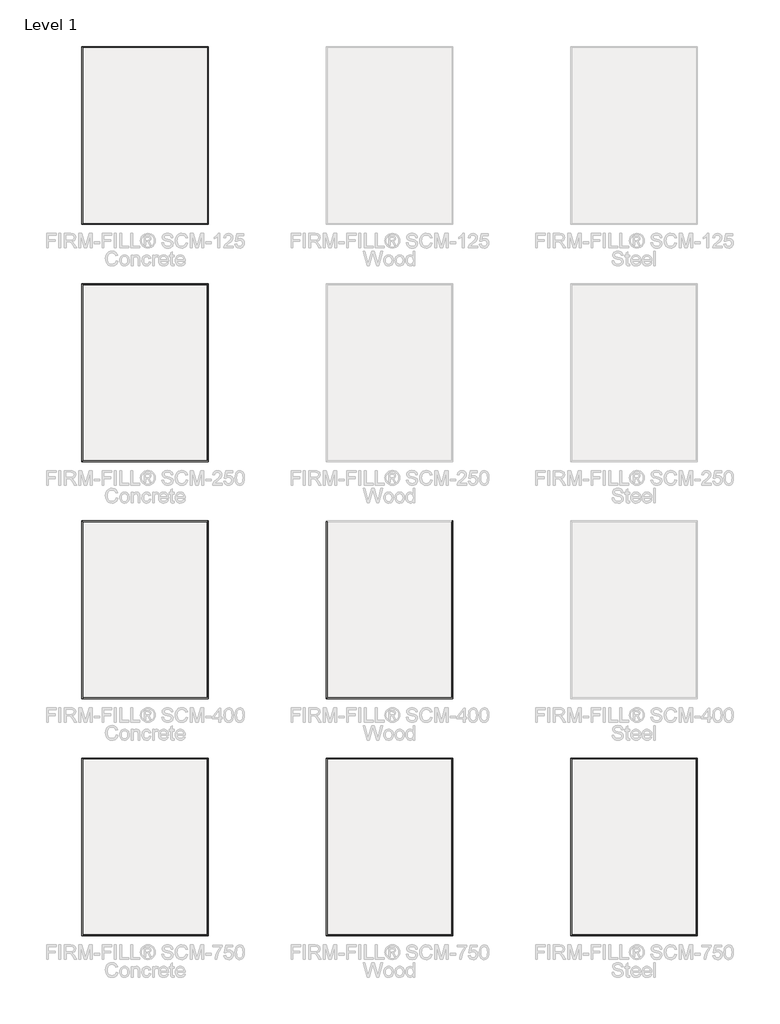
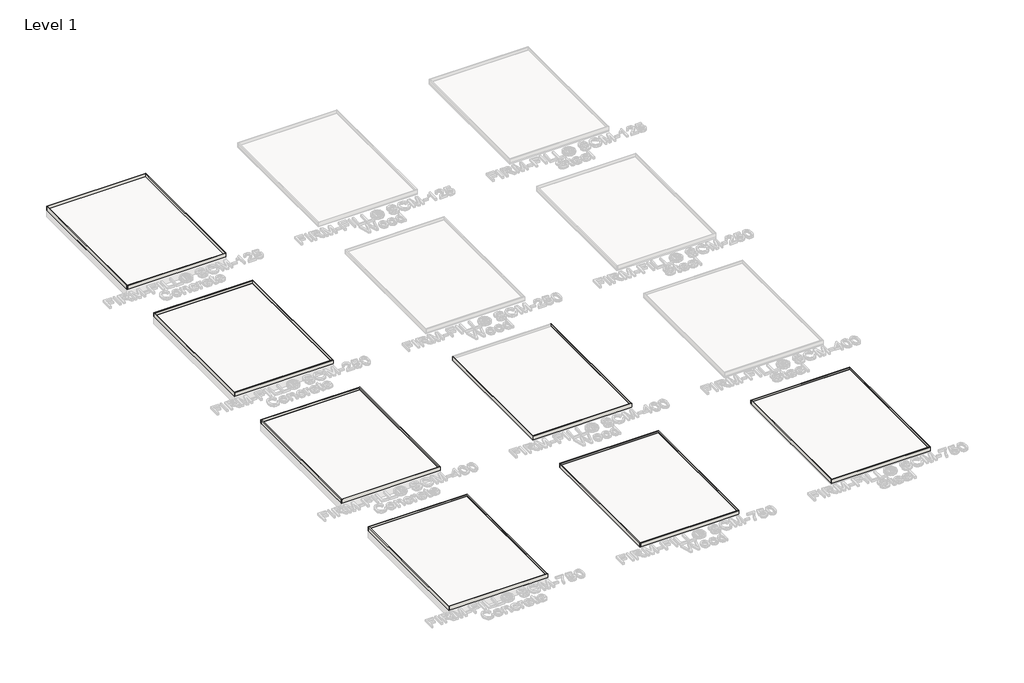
# One storey, part 1 of 10: 50 walls.
"""IFC4 building model written with IfcOpenShell, lengths in millimetres."""

from ifc_helpers import new_model, si_unit, frame, origin, place, context, project, spatial, polyline, outline, extrude, faceted_brep, element, save

model = new_model("IFC4")

# Units and contexts
model_context = context("Model", 3, world=origin())
ifc_project = project(units=[si_unit("LENGTHUNIT", "METRE", prefix="MILLI")], contexts=[model_context])

# Site, building, storey
site = spatial("IfcSite", under=ifc_project)
building = spatial("IfcBuilding", under=site)
storey = spatial("IfcBuildingStorey", under=building, Name="Level 1", Elevation=0.0)

# Walls
placement = place(None, origin())
element("IfcWall", 1, ObjectType="5/8\" Gypsum Board", at=placement, inside=storey, context=model_context, shape_type="Brep", body=[
    faceted_brep([(-4660.0056154, -15132.3614307, -57.15), (-4660.0056154, -18812.1864307, -57.15), (-4660.0056154, -18812.1864307, 44.45), (-4660.0056154, -15132.3614307, 44.45), (-4644.1306154, -15132.3614307, -57.15), (-4644.1306154, -15132.3614307, 44.45), (-4644.1306154, -18796.3114307, 44.45), (-4644.1306154, -18812.1864307, 44.45), (-4644.1306154, -18812.1864307, -57.15), (-4644.1306154, -18796.3114307, -57.15)], [[[0, 1, 2, 3]], [[4, 5, 6, 7, 8, 9]], [[1, 0, 4, 9, 8]], [[3, 2, 7, 6, 5]], [[2, 1, 8, 7]], [[0, 3, 5, 4]]]),
])
element("IfcWall", 2, ObjectType="5/8\" Gypsum Board", at=placement, inside=storey, context=model_context, shape_type="Brep", body=[
    faceted_brep([(-2031.1056154, -18796.3114307, -57.15), (-2046.9806154, -18796.3114307, -57.15), (-4644.1306154, -18796.3114307, -57.15), (-4644.1306154, -18796.3114307, 44.45), (-2046.9806154, -18796.3114307, 44.45), (-2031.1056154, -18796.3114307, 44.45), (-2031.1056154, -18812.1864307, -57.15), (-2031.1056154, -18812.1864307, 44.45), (-4644.1306154, -18812.1864307, 44.45), (-4644.1306154, -18812.1864307, -57.15)], [[[0, 1, 2, 3, 4, 5]], [[6, 7, 8, 9]], [[2, 1, 0, 6, 9]], [[5, 4, 3, 8, 7]], [[3, 2, 9, 8]], [[0, 5, 7, 6]]]),
])
element("IfcWall", 3, ObjectType="5/8\" Gypsum Board", at=placement, inside=storey, context=model_context, shape_type="Brep", body=[
    faceted_brep([(-2046.9806154, -15116.4864307, -57.15), (-2046.9806154, -15132.3614307, -57.15), (-2046.9806154, -18796.3114307, -57.15), (-2046.9806154, -18796.3114307, 44.45), (-2046.9806154, -15132.3614307, 44.45), (-2046.9806154, -15116.4864307, 44.45), (-2031.1056154, -15116.4864307, -57.15), (-2031.1056154, -15116.4864307, 44.45), (-2031.1056154, -18796.3114307, 44.45), (-2031.1056154, -18796.3114307, -57.15)], [[[0, 1, 2, 3, 4, 5]], [[6, 7, 8, 9]], [[2, 1, 0, 6, 9]], [[5, 4, 3, 8, 7]], [[3, 2, 9, 8]], [[0, 5, 7, 6]]]),
])
element("IfcWall", 4, ObjectType="5/8\" Gypsum Board", at=placement, inside=storey, context=model_context, shape_type="Brep", body=[
    faceted_brep([(-4660.0056154, -15132.3614307, -57.15), (-4644.1306154, -15132.3614307, -57.15), (-2046.9806154, -15132.3614307, -57.15), (-2046.9806154, -15132.3614307, 44.45), (-4644.1306154, -15132.3614307, 44.45), (-4660.0056154, -15132.3614307, 44.45), (-4660.0056154, -15116.4864307, -57.15), (-4660.0056154, -15116.4864307, 44.45), (-2046.9806154, -15116.4864307, 44.45), (-2046.9806154, -15116.4864307, -57.15)], [[[0, 1, 2, 3, 4, 5]], [[6, 7, 8, 9]], [[2, 1, 0, 6, 9]], [[5, 4, 3, 8, 7]], [[3, 2, 9, 8]], [[0, 5, 7, 6]]]),
])
element("IfcWall", 5, ObjectType="5/8\" Gypsum Board", at=placement, inside=storey, context=model_context, shape_type="Brep", body=[
    faceted_brep([(419.9943846, -15132.3614307, -57.15), (419.9943846, -18812.1864307, -57.15), (419.9943846, -18812.1864307, 44.45), (419.9943846, -15132.3614307, 44.45), (435.8693846, -15132.3614307, -57.15), (435.8693846, -15132.3614307, 44.45), (435.8693846, -18796.3114307, 44.45), (435.8693846, -18812.1864307, 44.45), (435.8693846, -18812.1864307, -57.15), (435.8693846, -18796.3114307, -57.15)], [[[0, 1, 2, 3]], [[4, 5, 6, 7, 8, 9]], [[1, 0, 4, 9, 8]], [[3, 2, 7, 6, 5]], [[2, 1, 8, 7]], [[0, 3, 5, 4]]]),
])
element("IfcWall", 6, ObjectType="5/8\" Gypsum Board", at=placement, inside=storey, context=model_context, shape_type="Brep", body=[
    faceted_brep([(3048.8943846, -18796.3114307, -57.15), (3033.0193846, -18796.3114307, -57.15), (435.8693846, -18796.3114307, -57.15), (435.8693846, -18796.3114307, 44.45), (3033.0193846, -18796.3114307, 44.45), (3048.8943846, -18796.3114307, 44.45), (3048.8943846, -18812.1864307, -57.15), (3048.8943846, -18812.1864307, 44.45), (435.8693846, -18812.1864307, 44.45), (435.8693846, -18812.1864307, -57.15)], [[[0, 1, 2, 3, 4, 5]], [[6, 7, 8, 9]], [[2, 1, 0, 6, 9]], [[5, 4, 3, 8, 7]], [[3, 2, 9, 8]], [[0, 5, 7, 6]]]),
])
element("IfcWall", 7, ObjectType="5/8\" Gypsum Board", at=placement, inside=storey, context=model_context, shape_type="Brep", body=[
    faceted_brep([(3033.0193846, -15116.4864307, -57.15), (3033.0193846, -15132.3614307, -57.15), (3033.0193846, -18796.3114307, -57.15), (3033.0193846, -18796.3114307, 44.45), (3033.0193846, -15132.3614307, 44.45), (3033.0193846, -15116.4864307, 44.45), (3048.8943846, -15116.4864307, -57.15), (3048.8943846, -15116.4864307, 44.45), (3048.8943846, -18796.3114307, 44.45), (3048.8943846, -18796.3114307, -57.15)], [[[0, 1, 2, 3, 4, 5]], [[6, 7, 8, 9]], [[2, 1, 0, 6, 9]], [[5, 4, 3, 8, 7]], [[3, 2, 9, 8]], [[0, 5, 7, 6]]]),
])
element("IfcWall", 8, ObjectType="5/8\" Gypsum Board", at=placement, inside=storey, context=model_context, shape_type="Brep", body=[
    faceted_brep([(419.9943846, -15132.3614307, -57.15), (435.8693846, -15132.3614307, -57.15), (3033.0193846, -15132.3614307, -57.15), (3033.0193846, -15132.3614307, 44.45), (435.8693846, -15132.3614307, 44.45), (419.9943846, -15132.3614307, 44.45), (419.9943846, -15116.4864307, -57.15), (419.9943846, -15116.4864307, 44.45), (3033.0193846, -15116.4864307, 44.45), (3033.0193846, -15116.4864307, -57.15)], [[[0, 1, 2, 3, 4, 5]], [[6, 7, 8, 9]], [[2, 1, 0, 6, 9]], [[5, 4, 3, 8, 7]], [[3, 2, 9, 8]], [[0, 5, 7, 6]]]),
])
element("IfcWall", 9, ObjectType="5/8\" Gypsum Board", at=placement, inside=storey, context=model_context, shape_type="Brep", body=[
    faceted_brep([(5499.9943846, -15132.3614307, -57.15), (5499.9943846, -18812.1864307, -57.15), (5499.9943846, -18812.1864307, 44.45), (5499.9943846, -15132.3614307, 44.45), (5515.8693846, -15132.3614307, -57.15), (5515.8693846, -15132.3614307, 44.45), (5515.8693846, -18796.3114307, 44.45), (5515.8693846, -18812.1864307, 44.45), (5515.8693846, -18812.1864307, -57.15), (5515.8693846, -18796.3114307, -57.15)], [[[0, 1, 2, 3]], [[4, 5, 6, 7, 8, 9]], [[1, 0, 4, 9, 8]], [[3, 2, 7, 6, 5]], [[2, 1, 8, 7]], [[0, 3, 5, 4]]]),
])
element("IfcWall", 10, ObjectType="5/8\" Gypsum Board", at=placement, inside=storey, context=model_context, shape_type="Brep", body=[
    faceted_brep([(8128.8943846, -18796.3114307, -57.15), (8113.0193846, -18796.3114307, -57.15), (5515.8693846, -18796.3114307, -57.15), (5515.8693846, -18796.3114307, 44.45), (8113.0193846, -18796.3114307, 44.45), (8128.8943846, -18796.3114307, 44.45), (8128.8943846, -18812.1864307, -57.15), (8128.8943846, -18812.1864307, 44.45), (5515.8693846, -18812.1864307, 44.45), (5515.8693846, -18812.1864307, -57.15)], [[[0, 1, 2, 3, 4, 5]], [[6, 7, 8, 9]], [[2, 1, 0, 6, 9]], [[5, 4, 3, 8, 7]], [[3, 2, 9, 8]], [[0, 5, 7, 6]]]),
])
element("IfcWall", 11, ObjectType="5/8\" Gypsum Board", at=placement, inside=storey, context=model_context, shape_type="Brep", body=[
    faceted_brep([(8113.0193846, -15116.4864307, -57.15), (8113.0193846, -15132.3614307, -57.15), (8113.0193846, -18796.3114307, -57.15), (8113.0193846, -18796.3114307, 44.45), (8113.0193846, -15132.3614307, 44.45), (8113.0193846, -15116.4864307, 44.45), (8128.8943846, -15116.4864307, -57.15), (8128.8943846, -15116.4864307, 44.45), (8128.8943846, -18796.3114307, 44.45), (8128.8943846, -18796.3114307, -57.15)], [[[0, 1, 2, 3, 4, 5]], [[6, 7, 8, 9]], [[2, 1, 0, 6, 9]], [[5, 4, 3, 8, 7]], [[3, 2, 9, 8]], [[0, 5, 7, 6]]]),
])
element("IfcWall", 12, ObjectType="5/8\" Gypsum Board", at=placement, inside=storey, context=model_context, shape_type="Brep", body=[
    faceted_brep([(5499.9943846, -15132.3614307, -57.15), (5515.8693846, -15132.3614307, -57.15), (8113.0193846, -15132.3614307, -57.15), (8113.0193846, -15132.3614307, 44.45), (5515.8693846, -15132.3614307, 44.45), (5499.9943846, -15132.3614307, 44.45), (5499.9943846, -15116.4864307, -57.15), (5499.9943846, -15116.4864307, 44.45), (8113.0193846, -15116.4864307, 44.45), (8113.0193846, -15116.4864307, -57.15)], [[[0, 1, 2, 3, 4, 5]], [[6, 7, 8, 9]], [[2, 1, 0, 6, 9]], [[5, 4, 3, 8, 7]], [[3, 2, 9, 8]], [[0, 5, 7, 6]]]),
])
element("IfcWall", 13, ObjectType="5/8\" Gypsum Board", at=placement, inside=storey, context=model_context, shape_type="Brep", body=[
    faceted_brep([(-4660.0056154, -10204.7614307, -41.91), (-4660.0056154, -13884.5864307, -41.91), (-4660.0056154, -13884.5864307, 59.69), (-4660.0056154, -10204.7614307, 59.69), (-4644.1306154, -10204.7614307, -41.91), (-4644.1306154, -10204.7614307, 59.69), (-4644.1306154, -13868.7114307, 59.69), (-4644.1306154, -13884.5864307, 59.69), (-4644.1306154, -13884.5864307, -41.91), (-4644.1306154, -13868.7114307, -41.91)], [[[0, 1, 2, 3]], [[4, 5, 6, 7, 8, 9]], [[1, 0, 4, 9, 8]], [[3, 2, 7, 6, 5]], [[2, 1, 8, 7]], [[0, 3, 5, 4]]]),
])
element("IfcWall", 14, ObjectType="5/8\" Gypsum Board", at=placement, inside=storey, context=model_context, shape_type="Brep", body=[
    faceted_brep([(-2031.1056154, -13868.7114307, -41.91), (-2046.9806154, -13868.7114307, -41.91), (-4644.1306154, -13868.7114307, -41.91), (-4644.1306154, -13868.7114307, 59.69), (-2046.9806154, -13868.7114307, 59.69), (-2031.1056154, -13868.7114307, 59.69), (-2031.1056154, -13884.5864307, -41.91), (-2031.1056154, -13884.5864307, 59.69), (-4644.1306154, -13884.5864307, 59.69), (-4644.1306154, -13884.5864307, -41.91)], [[[0, 1, 2, 3, 4, 5]], [[6, 7, 8, 9]], [[2, 1, 0, 6, 9]], [[5, 4, 3, 8, 7]], [[3, 2, 9, 8]], [[0, 5, 7, 6]]]),
])
element("IfcWall", 15, ObjectType="5/8\" Gypsum Board", at=placement, inside=storey, context=model_context, shape_type="Brep", body=[
    faceted_brep([(-2046.9806154, -10188.8864307, -41.91), (-2046.9806154, -10204.7614307, -41.91), (-2046.9806154, -13868.7114307, -41.91), (-2046.9806154, -13868.7114307, 59.69), (-2046.9806154, -10204.7614307, 59.69), (-2046.9806154, -10188.8864307, 59.69), (-2031.1056154, -10188.8864307, -41.91), (-2031.1056154, -10188.8864307, 59.69), (-2031.1056154, -13868.7114307, 59.69), (-2031.1056154, -13868.7114307, -41.91)], [[[0, 1, 2, 3, 4, 5]], [[6, 7, 8, 9]], [[2, 1, 0, 6, 9]], [[5, 4, 3, 8, 7]], [[3, 2, 9, 8]], [[0, 5, 7, 6]]]),
])
element("IfcWall", 16, ObjectType="5/8\" Gypsum Board", at=placement, inside=storey, context=model_context, shape_type="Brep", body=[
    faceted_brep([(-4660.0056154, -10204.7614307, -41.91), (-4644.1306154, -10204.7614307, -41.91), (-2046.9806154, -10204.7614307, -41.91), (-2046.9806154, -10204.7614307, 59.69), (-4644.1306154, -10204.7614307, 59.69), (-4660.0056154, -10204.7614307, 59.69), (-4660.0056154, -10188.8864307, -41.91), (-4660.0056154, -10188.8864307, 59.69), (-2046.9806154, -10188.8864307, 59.69), (-2046.9806154, -10188.8864307, -41.91)], [[[0, 1, 2, 3, 4, 5]], [[6, 7, 8, 9]], [[2, 1, 0, 6, 9]], [[5, 4, 3, 8, 7]], [[3, 2, 9, 8]], [[0, 5, 7, 6]]]),
])
element("IfcWall", 17, ObjectType="5/8\" Gypsum Board", at=placement, inside=storey, context=model_context, shape_type="Brep", body=[
    faceted_brep([(419.9943846, -10204.7614307, -41.91), (419.9943846, -13884.5864307, -41.91), (419.9943846, -13884.5864307, 59.69), (419.9943846, -10204.7614307, 59.69), (435.8693846, -10204.7614307, -41.91), (435.8693846, -10204.7614307, 59.69), (435.8693846, -13868.7114307, 59.69), (435.8693846, -13884.5864307, 59.69), (435.8693846, -13884.5864307, -41.91), (435.8693846, -13868.7114307, -41.91)], [[[0, 1, 2, 3]], [[4, 5, 6, 7, 8, 9]], [[1, 0, 4, 9, 8]], [[3, 2, 7, 6, 5]], [[2, 1, 8, 7]], [[0, 3, 5, 4]]]),
])
element("IfcWall", 18, ObjectType="5/8\" Gypsum Board", at=placement, inside=storey, context=model_context, shape_type="Brep", body=[
    faceted_brep([(3048.8943846, -13868.7114307, -41.91), (3033.0193846, -13868.7114307, -41.91), (435.8693846, -13868.7114307, -41.91), (435.8693846, -13868.7114307, 59.69), (3033.0193846, -13868.7114307, 59.69), (3048.8943846, -13868.7114307, 59.69), (3048.8943846, -13884.5864307, -41.91), (3048.8943846, -13884.5864307, 59.69), (435.8693846, -13884.5864307, 59.69), (435.8693846, -13884.5864307, -41.91)], [[[0, 1, 2, 3, 4, 5]], [[6, 7, 8, 9]], [[2, 1, 0, 6, 9]], [[5, 4, 3, 8, 7]], [[3, 2, 9, 8]], [[0, 5, 7, 6]]]),
])
element("IfcWall", 19, ObjectType="5/8\" Gypsum Board", at=placement, inside=storey, context=model_context, shape_type="Brep", body=[
    faceted_brep([(3033.0193846, -10188.8864307, -41.91), (3033.0193846, -10204.7614307, -41.91), (3033.0193846, -13868.7114307, -41.91), (3033.0193846, -13868.7114307, 59.69), (3033.0193846, -10204.7614307, 59.69), (3033.0193846, -10188.8864307, 59.69), (3048.8943846, -10188.8864307, -41.91), (3048.8943846, -10188.8864307, 59.69), (3048.8943846, -13868.7114307, 59.69), (3048.8943846, -13868.7114307, -41.91)], [[[0, 1, 2, 3, 4, 5]], [[6, 7, 8, 9]], [[2, 1, 0, 6, 9]], [[5, 4, 3, 8, 7]], [[3, 2, 9, 8]], [[0, 5, 7, 6]]]),
])
element("IfcWall", 20, ObjectType="5/8\" Gypsum Board", at=placement, inside=storey, context=model_context, shape_type="Brep", body=[
    faceted_brep([(-4660.0056154, -5277.1614307, -31.75), (-4660.0056154, -8956.9864307, -31.75), (-4660.0056154, -8956.9864307, 69.85), (-4660.0056154, -5277.1614307, 69.85), (-4644.1306154, -5277.1614307, -31.75), (-4644.1306154, -5277.1614307, 69.85), (-4644.1306154, -8941.1114307, 69.85), (-4644.1306154, -8956.9864307, 69.85), (-4644.1306154, -8956.9864307, -31.75), (-4644.1306154, -8941.1114307, -31.75)], [[[0, 1, 2, 3]], [[4, 5, 6, 7, 8, 9]], [[1, 0, 4, 9, 8]], [[3, 2, 7, 6, 5]], [[2, 1, 8, 7]], [[0, 3, 5, 4]]]),
])
element("IfcWall", 21, ObjectType="5/8\" Gypsum Board", at=placement, inside=storey, context=model_context, shape_type="Brep", body=[
    faceted_brep([(-2031.1056154, -8941.1114307, -31.75), (-2046.9806154, -8941.1114307, -31.75), (-4644.1306154, -8941.1114307, -31.75), (-4644.1306154, -8941.1114307, 69.85), (-2046.9806154, -8941.1114307, 69.85), (-2031.1056154, -8941.1114307, 69.85), (-2031.1056154, -8956.9864307, -31.75), (-2031.1056154, -8956.9864307, 69.85), (-4644.1306154, -8956.9864307, 69.85), (-4644.1306154, -8956.9864307, -31.75)], [[[0, 1, 2, 3, 4, 5]], [[6, 7, 8, 9]], [[2, 1, 0, 6, 9]], [[5, 4, 3, 8, 7]], [[3, 2, 9, 8]], [[0, 5, 7, 6]]]),
])
element("IfcWall", 22, ObjectType="5/8\" Gypsum Board", at=placement, inside=storey, context=model_context, shape_type="Brep", body=[
    faceted_brep([(-2046.9806154, -5261.2864307, -31.75), (-2046.9806154, -5277.1614307, -31.75), (-2046.9806154, -8941.1114307, -31.75), (-2046.9806154, -8941.1114307, 69.85), (-2046.9806154, -5277.1614307, 69.85), (-2046.9806154, -5261.2864307, 69.85), (-2031.1056154, -5261.2864307, -31.75), (-2031.1056154, -5261.2864307, 69.85), (-2031.1056154, -8941.1114307, 69.85), (-2031.1056154, -8941.1114307, -31.75)], [[[0, 1, 2, 3, 4, 5]], [[6, 7, 8, 9]], [[2, 1, 0, 6, 9]], [[5, 4, 3, 8, 7]], [[3, 2, 9, 8]], [[0, 5, 7, 6]]]),
])
element("IfcWall", 23, ObjectType="5/8\" Gypsum Board", at=placement, inside=storey, context=model_context, shape_type="Brep", body=[
    faceted_brep([(-4660.0056154, -5277.1614307, -31.75), (-4644.1306154, -5277.1614307, -31.75), (-2046.9806154, -5277.1614307, -31.75), (-2046.9806154, -5277.1614307, 69.85), (-4644.1306154, -5277.1614307, 69.85), (-4660.0056154, -5277.1614307, 69.85), (-4660.0056154, -5261.2864307, -31.75), (-4660.0056154, -5261.2864307, 69.85), (-2046.9806154, -5261.2864307, 69.85), (-2046.9806154, -5261.2864307, -31.75)], [[[0, 1, 2, 3, 4, 5]], [[6, 7, 8, 9]], [[2, 1, 0, 6, 9]], [[5, 4, 3, 8, 7]], [[3, 2, 9, 8]], [[0, 5, 7, 6]]]),
])
element("IfcWall", 24, ObjectType="5/8\" Gypsum Board", at=placement, inside=storey, context=model_context, shape_type="Brep", body=[
    faceted_brep([(-4660.0056154, -349.5614307, -22.225), (-4660.0056154, -4029.3864307, -22.225), (-4660.0056154, -4029.3864307, 79.375), (-4660.0056154, -349.5614307, 79.375), (-4644.1306154, -349.5614307, -22.225), (-4644.1306154, -349.5614307, 79.375), (-4644.1306154, -4013.5114307, 79.375), (-4644.1306154, -4029.3864307, 79.375), (-4644.1306154, -4029.3864307, -22.225), (-4644.1306154, -4013.5114307, -22.225)], [[[0, 1, 2, 3]], [[4, 5, 6, 7, 8, 9]], [[1, 0, 4, 9, 8]], [[3, 2, 7, 6, 5]], [[2, 1, 8, 7]], [[0, 3, 5, 4]]]),
])
element("IfcWall", 25, ObjectType="5/8\" Gypsum Board", at=placement, inside=storey, context=model_context, shape_type="Brep", body=[
    faceted_brep([(-2031.1056154, -4013.5114307, -22.225), (-2046.9806154, -4013.5114307, -22.225), (-4644.1306154, -4013.5114307, -22.225), (-4644.1306154, -4013.5114307, 79.375), (-2046.9806154, -4013.5114307, 79.375), (-2031.1056154, -4013.5114307, 79.375), (-2031.1056154, -4029.3864307, -22.225), (-2031.1056154, -4029.3864307, 79.375), (-4644.1306154, -4029.3864307, 79.375), (-4644.1306154, -4029.3864307, -22.225)], [[[0, 1, 2, 3, 4, 5]], [[6, 7, 8, 9]], [[2, 1, 0, 6, 9]], [[5, 4, 3, 8, 7]], [[3, 2, 9, 8]], [[0, 5, 7, 6]]]),
])
element("IfcWall", 26, ObjectType="5/8\" Gypsum Board", at=placement, inside=storey, context=model_context, shape_type="Brep", body=[
    faceted_brep([(-2046.9806154, -333.6864307, -22.225), (-2046.9806154, -349.5614307, -22.225), (-2046.9806154, -4013.5114307, -22.225), (-2046.9806154, -4013.5114307, 79.375), (-2046.9806154, -349.5614307, 79.375), (-2046.9806154, -333.6864307, 79.375), (-2031.1056154, -333.6864307, -22.225), (-2031.1056154, -333.6864307, 79.375), (-2031.1056154, -4013.5114307, 79.375), (-2031.1056154, -4013.5114307, -22.225)], [[[0, 1, 2, 3, 4, 5]], [[6, 7, 8, 9]], [[2, 1, 0, 6, 9]], [[5, 4, 3, 8, 7]], [[3, 2, 9, 8]], [[0, 5, 7, 6]]]),
])
element("IfcWall", 27, ObjectType="5/8\" Gypsum Board", at=placement, inside=storey, context=model_context, shape_type="Brep", body=[
    faceted_brep([(-4660.0056154, -349.5614307, -22.225), (-4644.1306154, -349.5614307, -22.225), (-2046.9806154, -349.5614307, -22.225), (-2046.9806154, -349.5614307, 79.375), (-4644.1306154, -349.5614307, 79.375), (-4660.0056154, -349.5614307, 79.375), (-4660.0056154, -333.6864307, -22.225), (-4660.0056154, -333.6864307, 79.375), (-2046.9806154, -333.6864307, 79.375), (-2046.9806154, -333.6864307, -22.225)], [[[0, 1, 2, 3, 4, 5]], [[6, 7, 8, 9]], [[2, 1, 0, 6, 9]], [[5, 4, 3, 8, 7]], [[3, 2, 9, 8]], [[0, 5, 7, 6]]]),
])
element("IfcWall", 28, ObjectType="Perimeter Isolation", at=placement, inside=storey, context=model_context, shape_type="Brep", body=[
    faceted_brep([(5515.8693846, -15132.3614307, -57.15), (5515.8693846, -18796.3114307, -57.15), (5515.8693846, -18796.3114307, 0.0), (5515.8693846, -15132.3614307, 0.0), (5519.0443846, -15132.3614307, -57.15), (5519.0443846, -15132.3614307, 0.0), (5519.0443846, -15135.5364307, 0.0), (5519.0443846, -18793.1364307, 0.0), (5519.0443846, -18796.3114307, 0.0), (5519.0443846, -18796.3114307, -57.15), (5519.0443846, -18793.1364307, -57.15), (5519.0443846, -15135.5364307, -57.15)], [[[0, 1, 2, 3]], [[4, 5, 6, 7, 8, 9, 10, 11]], [[1, 0, 4, 11, 10, 9]], [[3, 2, 8, 7, 6, 5]], [[0, 3, 5, 4]], [[2, 1, 9, 8]]]),
])
element("IfcWall", 29, ObjectType="Perimeter Isolation", at=placement, inside=storey, context=model_context, shape_type="Brep", body=[
    faceted_brep([(5519.0443846, -15135.5364307, -57.15), (8109.8443846, -15135.5364307, -57.15), (8113.0193846, -15135.5364307, -57.15), (8113.0193846, -15135.5364307, 0.0), (8109.8443846, -15135.5364307, 0.0), (5519.0443846, -15135.5364307, 0.0), (5519.0443846, -15132.3614307, -57.15), (5519.0443846, -15132.3614307, 0.0), (8113.0193846, -15132.3614307, 0.0), (8113.0193846, -15132.3614307, -57.15)], [[[0, 1, 2, 3, 4, 5]], [[6, 7, 8, 9]], [[2, 1, 0, 6, 9]], [[5, 4, 3, 8, 7]], [[0, 5, 7, 6]], [[3, 2, 9, 8]]]),
])
element("IfcWall", 30, ObjectType="Perimeter Isolation", at=placement, inside=storey, context=model_context, shape_type="Brep", body=[
    faceted_brep([(8109.8443846, -15135.5364307, -57.15), (8109.8443846, -18793.1364307, -57.15), (8109.8443846, -18796.3114307, -57.15), (8109.8443846, -18796.3114307, 0.0), (8109.8443846, -18793.1364307, 0.0), (8109.8443846, -15135.5364307, 0.0), (8113.0193846, -15135.5364307, -57.15), (8113.0193846, -15135.5364307, 0.0), (8113.0193846, -18796.3114307, 0.0), (8113.0193846, -18796.3114307, -57.15)], [[[0, 1, 2, 3, 4, 5]], [[6, 7, 8, 9]], [[2, 1, 0, 6, 9]], [[5, 4, 3, 8, 7]], [[0, 5, 7, 6]], [[3, 2, 9, 8]]]),
])
element("IfcWall", 31, ObjectType="Perimeter Isolation", at=placement, inside=storey, context=model_context, shape_type="SweptSolid", body=[
    extrude(outline(polyline([(5519.0443846, -18793.1364307), (8109.8443846, -18793.1364307), (8109.8443846, -18796.3114307), (5519.0443846, -18796.3114307), (5519.0443846, -18793.1364307)])), frame((0.0, 0.0, -57.15), z_axis=(0.0, 0.0, 1.0), x_axis=(1.0, 0.0, 0.0)), (0.0, 0.0, 1.0), 57.15),
])
element("IfcWall", 32, ObjectType="Perimeter Isolation", at=placement, inside=storey, context=model_context, shape_type="Brep", body=[
    faceted_brep([(435.8693846, -15132.3614307, -57.15), (435.8693846, -18796.3114307, -57.15), (435.8693846, -18796.3114307, 0.0), (435.8693846, -15132.3614307, 0.0), (439.0443846, -15132.3614307, -57.15), (439.0443846, -15132.3614307, 0.0), (439.0443846, -15135.5364307, 0.0), (439.0443846, -18793.1364307, 0.0), (439.0443846, -18796.3114307, 0.0), (439.0443846, -18796.3114307, -57.15), (439.0443846, -18793.1364307, -57.15), (439.0443846, -15135.5364307, -57.15)], [[[0, 1, 2, 3]], [[4, 5, 6, 7, 8, 9, 10, 11]], [[1, 0, 4, 11, 10, 9]], [[3, 2, 8, 7, 6, 5]], [[0, 3, 5, 4]], [[2, 1, 9, 8]]]),
])
element("IfcWall", 33, ObjectType="Perimeter Isolation", at=placement, inside=storey, context=model_context, shape_type="Brep", body=[
    faceted_brep([(439.0443846, -15135.5364307, -57.15), (3029.8443846, -15135.5364307, -57.15), (3033.0193846, -15135.5364307, -57.15), (3033.0193846, -15135.5364307, 0.0), (3029.8443846, -15135.5364307, 0.0), (439.0443846, -15135.5364307, 0.0), (439.0443846, -15132.3614307, -57.15), (439.0443846, -15132.3614307, 0.0), (3033.0193846, -15132.3614307, 0.0), (3033.0193846, -15132.3614307, -57.15)], [[[0, 1, 2, 3, 4, 5]], [[6, 7, 8, 9]], [[2, 1, 0, 6, 9]], [[5, 4, 3, 8, 7]], [[0, 5, 7, 6]], [[3, 2, 9, 8]]]),
])
element("IfcWall", 34, ObjectType="Perimeter Isolation", at=placement, inside=storey, context=model_context, shape_type="Brep", body=[
    faceted_brep([(3029.8443846, -15135.5364307, -57.15), (3029.8443846, -18793.1364307, -57.15), (3029.8443846, -18796.3114307, -57.15), (3029.8443846, -18796.3114307, 0.0), (3029.8443846, -18793.1364307, 0.0), (3029.8443846, -15135.5364307, 0.0), (3033.0193846, -15135.5364307, -57.15), (3033.0193846, -15135.5364307, 0.0), (3033.0193846, -18796.3114307, 0.0), (3033.0193846, -18796.3114307, -57.15)], [[[0, 1, 2, 3, 4, 5]], [[6, 7, 8, 9]], [[2, 1, 0, 6, 9]], [[5, 4, 3, 8, 7]], [[0, 5, 7, 6]], [[3, 2, 9, 8]]]),
])
element("IfcWall", 35, ObjectType="Perimeter Isolation", at=placement, inside=storey, context=model_context, shape_type="SweptSolid", body=[
    extrude(outline(polyline([(439.0443846, -18793.1364307), (3029.8443846, -18793.1364307), (3029.8443846, -18796.3114307), (439.0443846, -18796.3114307), (439.0443846, -18793.1364307)])), frame((0.0, 0.0, -57.15), z_axis=(0.0, 0.0, 1.0), x_axis=(1.0, 0.0, 0.0)), (0.0, 0.0, 1.0), 57.15),
])
element("IfcWall", 36, ObjectType="Perimeter Isolation", at=placement, inside=storey, context=model_context, shape_type="Brep", body=[
    faceted_brep([(-4644.1306154, -15132.3614307, -57.15), (-4644.1306154, -18796.3114307, -57.15), (-4644.1306154, -18796.3114307, 0.0), (-4644.1306154, -15132.3614307, 0.0), (-4640.9556154, -15132.3614307, -57.15), (-4640.9556154, -15132.3614307, 0.0), (-4640.9556154, -15135.5364307, 0.0), (-4640.9556154, -18793.1364307, 0.0), (-4640.9556154, -18796.3114307, 0.0), (-4640.9556154, -18796.3114307, -57.15), (-4640.9556154, -18793.1364307, -57.15), (-4640.9556154, -15135.5364307, -57.15)], [[[0, 1, 2, 3]], [[4, 5, 6, 7, 8, 9, 10, 11]], [[1, 0, 4, 11, 10, 9]], [[3, 2, 8, 7, 6, 5]], [[0, 3, 5, 4]], [[2, 1, 9, 8]]]),
])
element("IfcWall", 37, ObjectType="Perimeter Isolation", at=placement, inside=storey, context=model_context, shape_type="Brep", body=[
    faceted_brep([(-4640.9556154, -15135.5364307, -57.15), (-2050.1556154, -15135.5364307, -57.15), (-2046.9806154, -15135.5364307, -57.15), (-2046.9806154, -15135.5364307, 0.0), (-2050.1556154, -15135.5364307, 0.0), (-4640.9556154, -15135.5364307, 0.0), (-4640.9556154, -15132.3614307, -57.15), (-4640.9556154, -15132.3614307, 0.0), (-2046.9806154, -15132.3614307, 0.0), (-2046.9806154, -15132.3614307, -57.15)], [[[0, 1, 2, 3, 4, 5]], [[6, 7, 8, 9]], [[2, 1, 0, 6, 9]], [[5, 4, 3, 8, 7]], [[0, 5, 7, 6]], [[3, 2, 9, 8]]]),
])
element("IfcWall", 38, ObjectType="Perimeter Isolation", at=placement, inside=storey, context=model_context, shape_type="Brep", body=[
    faceted_brep([(-2050.1556154, -15135.5364307, -57.15), (-2050.1556154, -18793.1364307, -57.15), (-2050.1556154, -18796.3114307, -57.15), (-2050.1556154, -18796.3114307, 0.0), (-2050.1556154, -18793.1364307, 0.0), (-2050.1556154, -15135.5364307, 0.0), (-2046.9806154, -15135.5364307, -57.15), (-2046.9806154, -15135.5364307, 0.0), (-2046.9806154, -18796.3114307, 0.0), (-2046.9806154, -18796.3114307, -57.15)], [[[0, 1, 2, 3, 4, 5]], [[6, 7, 8, 9]], [[2, 1, 0, 6, 9]], [[5, 4, 3, 8, 7]], [[0, 5, 7, 6]], [[3, 2, 9, 8]]]),
])
element("IfcWall", 39, ObjectType="Perimeter Isolation", at=placement, inside=storey, context=model_context, shape_type="SweptSolid", body=[
    extrude(outline(polyline([(-4640.9556154, -18793.1364307), (-2050.1556154, -18793.1364307), (-2050.1556154, -18796.3114307), (-4640.9556154, -18796.3114307), (-4640.9556154, -18793.1364307)])), frame((0.0, 0.0, -57.15), z_axis=(0.0, 0.0, 1.0), x_axis=(1.0, 0.0, 0.0)), (0.0, 0.0, 1.0), 57.15),
])
element("IfcWall", 40, ObjectType="Perimeter Isolation", at=placement, inside=storey, context=model_context, shape_type="Brep", body=[
    faceted_brep([(435.8693846, -10204.7614307, -41.91), (435.8693846, -13868.7114307, -41.91), (435.8693846, -13868.7114307, 0.0), (435.8693846, -10204.7614307, 0.0), (439.0443846, -10204.7614307, -41.91), (439.0443846, -10204.7614307, 0.0), (439.0443846, -10207.9364307, 0.0), (439.0443846, -13865.5364307, 0.0), (439.0443846, -13868.7114307, 0.0), (439.0443846, -13868.7114307, -41.91), (439.0443846, -13865.5364307, -41.91), (439.0443846, -10207.9364307, -41.91)], [[[0, 1, 2, 3]], [[4, 5, 6, 7, 8, 9, 10, 11]], [[1, 0, 4, 11, 10, 9]], [[3, 2, 8, 7, 6, 5]], [[0, 3, 5, 4]], [[2, 1, 9, 8]]]),
])
element("IfcWall", 41, ObjectType="Perimeter Isolation", at=placement, inside=storey, context=model_context, shape_type="Brep", body=[
    faceted_brep([(3029.8443846, -10207.9364307, -41.91), (3029.8443846, -13865.5364307, -41.91), (3029.8443846, -13868.7114307, -41.91), (3029.8443846, -13868.7114307, 0.0), (3029.8443846, -13865.5364307, 0.0), (3029.8443846, -10207.9364307, 0.0), (3033.0193846, -10207.9364307, -41.91), (3033.0193846, -10207.9364307, 0.0), (3033.0193846, -13868.7114307, 0.0), (3033.0193846, -13868.7114307, -41.91)], [[[0, 1, 2, 3, 4, 5]], [[6, 7, 8, 9]], [[2, 1, 0, 6, 9]], [[5, 4, 3, 8, 7]], [[0, 5, 7, 6]], [[3, 2, 9, 8]]]),
])
element("IfcWall", 42, ObjectType="Perimeter Isolation", at=placement, inside=storey, context=model_context, shape_type="SweptSolid", body=[
    extrude(outline(polyline([(439.0443846, -13865.5364307), (3029.8443846, -13865.5364307), (3029.8443846, -13868.7114307), (439.0443846, -13868.7114307), (439.0443846, -13865.5364307)])), frame((0.0, 0.0, -41.91), z_axis=(0.0, 0.0, 1.0), x_axis=(1.0, 0.0, 0.0)), (0.0, 0.0, 1.0), 41.91),
])
element("IfcWall", 43, ObjectType="Perimeter Isolation", at=placement, inside=storey, context=model_context, shape_type="Brep", body=[
    faceted_brep([(-4644.1306154, -10204.7614307, -41.91), (-4644.1306154, -13868.7114307, -41.91), (-4644.1306154, -13868.7114307, 0.0), (-4644.1306154, -10204.7614307, 0.0), (-4640.9556154, -10204.7614307, -41.91), (-4640.9556154, -10204.7614307, 0.0), (-4640.9556154, -10207.9364307, 0.0), (-4640.9556154, -13865.5364307, 0.0), (-4640.9556154, -13868.7114307, 0.0), (-4640.9556154, -13868.7114307, -41.91), (-4640.9556154, -13865.5364307, -41.91), (-4640.9556154, -10207.9364307, -41.91)], [[[0, 1, 2, 3]], [[4, 5, 6, 7, 8, 9, 10, 11]], [[1, 0, 4, 11, 10, 9]], [[3, 2, 8, 7, 6, 5]], [[0, 3, 5, 4]], [[2, 1, 9, 8]]]),
])
element("IfcWall", 44, ObjectType="Perimeter Isolation", at=placement, inside=storey, context=model_context, shape_type="Brep", body=[
    faceted_brep([(-4640.9556154, -10207.9364307, -41.91), (-2050.1556154, -10207.9364307, -41.91), (-2046.9806154, -10207.9364307, -41.91), (-2046.9806154, -10207.9364307, 0.0), (-2050.1556154, -10207.9364307, 0.0), (-4640.9556154, -10207.9364307, 0.0), (-4640.9556154, -10204.7614307, -41.91), (-4640.9556154, -10204.7614307, 0.0), (-2046.9806154, -10204.7614307, 0.0), (-2046.9806154, -10204.7614307, -41.91)], [[[0, 1, 2, 3, 4, 5]], [[6, 7, 8, 9]], [[2, 1, 0, 6, 9]], [[5, 4, 3, 8, 7]], [[0, 5, 7, 6]], [[3, 2, 9, 8]]]),
])
element("IfcWall", 45, ObjectType="Perimeter Isolation", at=placement, inside=storey, context=model_context, shape_type="Brep", body=[
    faceted_brep([(-2050.1556154, -10207.9364307, -41.91), (-2050.1556154, -13865.5364307, -41.91), (-2050.1556154, -13868.7114307, -41.91), (-2050.1556154, -13868.7114307, 0.0), (-2050.1556154, -13865.5364307, 0.0), (-2050.1556154, -10207.9364307, 0.0), (-2046.9806154, -10207.9364307, -41.91), (-2046.9806154, -10207.9364307, 0.0), (-2046.9806154, -13868.7114307, 0.0), (-2046.9806154, -13868.7114307, -41.91)], [[[0, 1, 2, 3, 4, 5]], [[6, 7, 8, 9]], [[2, 1, 0, 6, 9]], [[5, 4, 3, 8, 7]], [[0, 5, 7, 6]], [[3, 2, 9, 8]]]),
])
element("IfcWall", 46, ObjectType="Perimeter Isolation", at=placement, inside=storey, context=model_context, shape_type="SweptSolid", body=[
    extrude(outline(polyline([(-4640.9556154, -13865.5364307), (-2050.1556154, -13865.5364307), (-2050.1556154, -13868.7114307), (-4640.9556154, -13868.7114307), (-4640.9556154, -13865.5364307)])), frame((0.0, 0.0, -41.91), z_axis=(0.0, 0.0, 1.0), x_axis=(1.0, 0.0, 0.0)), (0.0, 0.0, 1.0), 41.91),
])
element("IfcWall", 47, ObjectType="Perimeter Isolation", at=placement, inside=storey, context=model_context, shape_type="Brep", body=[
    faceted_brep([(-4644.1306154, -5277.1614307, -31.75), (-4644.1306154, -8941.1114307, -31.75), (-4644.1306154, -8941.1114307, 0.0), (-4644.1306154, -5277.1614307, 0.0), (-4640.9556154, -5277.1614307, -31.75), (-4640.9556154, -5277.1614307, 0.0), (-4640.9556154, -5280.3364307, 0.0), (-4640.9556154, -8937.9364307, 0.0), (-4640.9556154, -8941.1114307, 0.0), (-4640.9556154, -8941.1114307, -31.75), (-4640.9556154, -8937.9364307, -31.75), (-4640.9556154, -5280.3364307, -31.75)], [[[0, 1, 2, 3]], [[4, 5, 6, 7, 8, 9, 10, 11]], [[1, 0, 4, 11, 10, 9]], [[3, 2, 8, 7, 6, 5]], [[0, 3, 5, 4]], [[2, 1, 9, 8]]]),
])
element("IfcWall", 48, ObjectType="Perimeter Isolation", at=placement, inside=storey, context=model_context, shape_type="Brep", body=[
    faceted_brep([(-4640.9556154, -5280.3364307, -31.75), (-2050.1556154, -5280.3364307, -31.75), (-2046.9806154, -5280.3364307, -31.75), (-2046.9806154, -5280.3364307, 0.0), (-2050.1556154, -5280.3364307, 0.0), (-4640.9556154, -5280.3364307, 0.0), (-4640.9556154, -5277.1614307, -31.75), (-4640.9556154, -5277.1614307, 0.0), (-2046.9806154, -5277.1614307, 0.0), (-2046.9806154, -5277.1614307, -31.75)], [[[0, 1, 2, 3, 4, 5]], [[6, 7, 8, 9]], [[2, 1, 0, 6, 9]], [[5, 4, 3, 8, 7]], [[0, 5, 7, 6]], [[3, 2, 9, 8]]]),
])
element("IfcWall", 49, ObjectType="Perimeter Isolation", at=placement, inside=storey, context=model_context, shape_type="Brep", body=[
    faceted_brep([(-2050.1556154, -5280.3364307, -31.75), (-2050.1556154, -8937.9364307, -31.75), (-2050.1556154, -8941.1114307, -31.75), (-2050.1556154, -8941.1114307, 0.0), (-2050.1556154, -8937.9364307, 0.0), (-2050.1556154, -5280.3364307, 0.0), (-2046.9806154, -5280.3364307, -31.75), (-2046.9806154, -5280.3364307, 0.0), (-2046.9806154, -8941.1114307, 0.0), (-2046.9806154, -8941.1114307, -31.75)], [[[0, 1, 2, 3, 4, 5]], [[6, 7, 8, 9]], [[2, 1, 0, 6, 9]], [[5, 4, 3, 8, 7]], [[0, 5, 7, 6]], [[3, 2, 9, 8]]]),
])
element("IfcWall", 50, ObjectType="Perimeter Isolation", at=placement, inside=storey, context=model_context, shape_type="SweptSolid", body=[
    extrude(outline(polyline([(-4640.9556154, -8937.9364307), (-2050.1556154, -8937.9364307), (-2050.1556154, -8941.1114307), (-4640.9556154, -8941.1114307), (-4640.9556154, -8937.9364307)])), frame((0.0, 0.0, -31.75), z_axis=(0.0, 0.0, 1.0), x_axis=(1.0, 0.0, 0.0)), (0.0, 0.0, 1.0), 31.75),
])

save(model, "model.ifc")
